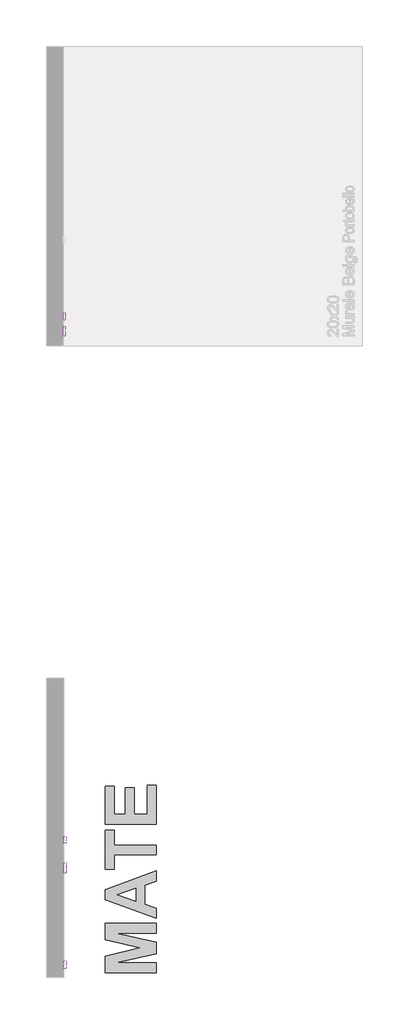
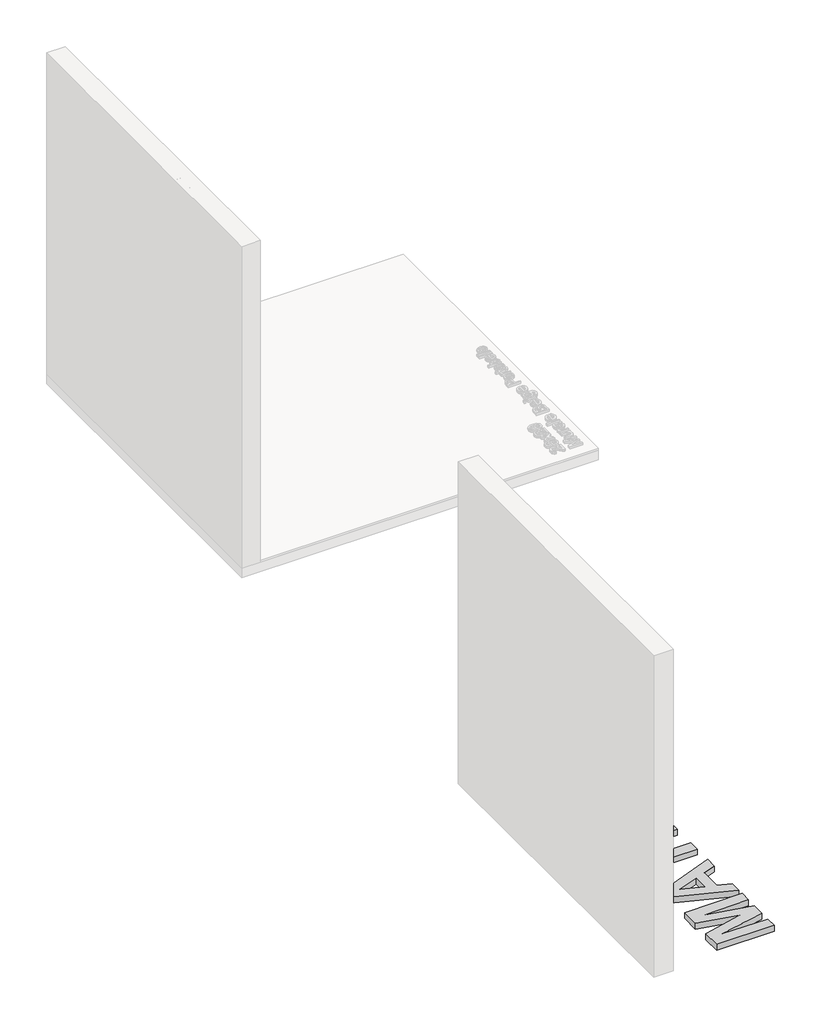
# One storey, part 11 of 21: 6 proxies.
"""IFC4 building model written with IfcOpenShell, lengths in millimetres."""

from ifc_helpers import new_model, si_unit, frame, origin, origin_with_axes, place, context, project, spatial, polyline, outline, extrude, element, save

model = new_model("IFC4")

# Units and contexts
model_context = context("Model", 3, world=origin())
ifc_project = project(units=[si_unit("LENGTHUNIT", "METRE", prefix="MILLI")], contexts=[model_context])

# Site, building, storey
site = spatial("IfcSite", under=ifc_project)
building = spatial("IfcBuilding", under=site)
storey = spatial("IfcBuildingStorey", under=building, Name="PORTOBELLO - SHOWROOM", Elevation=0.0)

# Proxies
placement = place(None, origin())
element("IfcBuildingElementProxy", 1, Name="10mm Arial", ObjectType="10mm Arial", at=placement, inside=storey, context=model_context, shape_type="SweptSolid", body=[
    extrude(outline(polyline([(16965.0222015, 2518.4745677), (16965.0222015, 2618.9308778), (16986.555561, 2618.9308778), (17007.1569527, 2548.1258565), (17011.326282, 2533.3370003), (17015.8144423, 2549.3521298), (17036.0234266, 2618.9308778), (17057.6303624, 2618.9308778), (17057.6303624, 2518.4745677), (17045.0733237, 2518.4745677), (17045.0733237, 2606.373839), (17019.8366188, 2518.4745677), (17002.8404706, 2518.4745677), (16977.5792403, 2606.373839), (16977.5792403, 2518.4745677), (16965.0222015, 2518.4745677)])), frame((15340.268651, 0.0, 0.0), z_axis=(1.0, 0.0, 0.0), x_axis=(0.0, 1.0, 0.0)), (0.0, 0.0, 1.0), 20.0),
    extrude(outline(polyline([(17125.1244458, 2518.4745677), (17125.1244458, 2531.1542338), (17115.2897338, 2520.4672618), (17102.4629149, 2516.9049378), (17090.6539029, 2519.4065354), (17082.511448, 2525.6850548), (17078.7713144, 2534.9311556), (17078.0355504, 2546.6052776), (17078.0355504, 2592.2471704), (17090.5925892, 2592.2471704), (17090.5925892, 2552.515915), (17091.3528787, 2539.7136215), (17096.3192856, 2532.1965661), (17105.675751, 2529.4619766), (17116.1603879, 2532.2578797), (17123.0888321, 2539.873037), (17125.1244458, 2553.8648156), (17125.1244458, 2592.2471704), (17137.6814846, 2592.2471704), (17137.6814846, 2518.4745677), (17125.1244458, 2518.4745677)])), frame((15340.268651, 0.0, 0.0), z_axis=(1.0, 0.0, 0.0), x_axis=(0.0, 1.0, 0.0)), (0.0, 0.0, 1.0), 20.0),
    extrude(outline(polyline([(17154.9474129, 2518.4745677), (17154.9474129, 2592.2471704), (17165.9348218, 2592.2471704), (17165.9348218, 2581.3333379), (17173.7339201, 2591.3887791), (17181.5820693, 2593.8168003), (17194.188159, 2589.9417766), (17189.9943043, 2578.6845875), (17181.1651364, 2581.2597615), (17174.0650139, 2578.7826894), (17169.5400654, 2571.9155588), (17167.5044517, 2557.24933), (17167.5044517, 2518.4745677), (17154.9474129, 2518.4745677)])), frame((15340.268651, 0.0, 0.0), z_axis=(1.0, 0.0, 0.0), x_axis=(0.0, 1.0, 0.0)), (0.0, 0.0, 1.0), 20.0),
    extrude(outline(polyline([(17249.1252037, 2527.8923467), (17236.9483096, 2519.3820099), (17223.4960913, 2516.9049378), (17213.0022574, 2518.3948599), (17205.2614071, 2522.8646261), (17200.4881382, 2529.6520489), (17198.8970486, 2538.0949407), (17201.3005443, 2548.0277546), (17207.6158519, 2555.2382417), (17216.4082316, 2559.3585201), (17227.2730131, 2561.246981), (17249.0516273, 2565.563463), (17249.1252037, 2568.3593662), (17245.6671129, 2577.6299925), (17231.785699, 2581.2597615), (17219.0815074, 2578.8440031), (17213.0237172, 2570.2723526), (17200.4666784, 2571.8419824), (17205.8990692, 2584.1047156), (17216.8374272, 2591.2906772), (17233.4043797, 2593.8168003), (17248.6224316, 2591.5849828), (17257.2186076, 2585.9809138), (17261.0691058, 2577.4583142), (17261.6822424, 2566.4709053), (17261.6822424, 2550.8481832), (17262.3199046, 2529.0327809), (17264.8215021, 2518.4745677), (17252.2644634, 2518.4745677), (17249.1252037, 2527.8923467)]), holes=[polyline([(17249.1252037, 2553.0064243), (17228.8671685, 2549.1559261), (17218.0637005, 2547.1203124), (17213.17087, 2543.8093744), (17211.4540874, 2538.9778575), (17215.194221, 2532.1843033), (17226.1693672, 2529.4619766), (17238.8735587, 2532.4663462), (17247.0650645, 2539.738147), (17249.0516273, 2549.4502317), (17249.1252037, 2553.0064243)])]), frame((15340.268651, 0.0, 0.0), z_axis=(1.0, 0.0, 0.0), x_axis=(0.0, 1.0, 0.0)), (0.0, 0.0, 1.0), 20.0),
    extrude(outline(polyline([(15360.268651, 17291.5052095), (15360.268651, 17278.9481707), (15340.268651, 17278.9481707), (15340.268651, 17291.5052095), (15360.268651, 17291.5052095)])), frame((0.0, 0.0, 2518.4745677), z_axis=(0.0, 0.0, 1.0), x_axis=(1.0, 0.0, 0.0)), (0.0, 0.0, 1.0), 100.4563101),
    extrude(outline(polyline([(17361.9913998, 2540.4493855), (17374.3031839, 2538.8797557), (17369.8671402, 2529.602998), (17362.7884774, 2522.6684224), (17353.2266112, 2518.345809), (17341.3409571, 2516.9049378), (17326.6072832, 2519.391207), (17315.2703864, 2526.8500144), (17308.0415052, 2538.7969822), (17305.6318781, 2554.7477324), (17308.0660307, 2571.2349771), (17315.3684883, 2583.5651553), (17326.5521009, 2591.253889), (17340.6297186, 2593.8168003), (17354.2689436, 2591.2600204), (17365.1674477, 2583.5896808), (17372.3135554, 2571.2840281), (17374.6955913, 2554.8213088), (17374.6220149, 2551.4367944), (17318.1889169, 2551.4367944), (17320.3624863, 2542.0374095), (17325.4116667, 2535.1273593), (17332.6987959, 2530.8783223), (17341.5862118, 2529.4619766), (17353.8979959, 2532.0862015), (17361.9913998, 2540.4493855)]), holes=[polyline([(17318.1889169, 2563.9938332), (17362.1385526, 2563.9938332), (17357.110832, 2575.3736496), (17349.7899803, 2579.7882335), (17340.5806677, 2581.2597615), (17325.1173611, 2576.5631347), (17320.2521217, 2571.0724959), (17318.1889169, 2563.9938332)])]), frame((15340.268651, 0.0, 0.0), z_axis=(1.0, 0.0, 0.0), x_axis=(0.0, 1.0, 0.0)), (0.0, 0.0, 1.0), 20.0),
    extrude(outline(polyline([(17428.0630061, 2518.4745677), (17428.0630061, 2618.9308778), (17466.39631, 2618.9308778), (17485.1705545, 2615.9755591), (17496.2560653, 2606.8888738), (17500.265979, 2594.0375295), (17496.8937274, 2582.3020938), (17486.7033961, 2573.4116123), (17499.0764939, 2564.0428841), (17503.4052387, 2548.4201621), (17500.44992, 2534.9188928), (17493.1290683, 2525.30491), (17482.2029731, 2520.203613), (17466.1020044, 2518.4745677), (17428.0630061, 2518.4745677)]), holes=[polyline([(17440.6200449, 2578.1205018), (17463.5513559, 2578.1205018), (17476.9422605, 2579.1996223), (17484.9988762, 2583.8471982), (17487.7089403, 2592.0264412), (17485.1828172, 2600.217947), (17477.9478047, 2605.0617266), (17461.8100478, 2606.373839), (17440.6200449, 2606.373839), (17440.6200449, 2578.1205018)]), polyline([(17440.6200449, 2531.0316064), (17466.3717845, 2531.0316064), (17475.6914618, 2531.5221158), (17483.5763992, 2534.2567053), (17488.8003235, 2539.8362488), (17490.8482, 2548.2975347), (17488.4447043, 2558.0586703), (17480.6578687, 2563.8834686), (17465.1455112, 2565.563463), (17440.6200449, 2565.563463), (17440.6200449, 2531.0316064)])]), frame((15340.268651, 0.0, 0.0), z_axis=(1.0, 0.0, 0.0), x_axis=(0.0, 1.0, 0.0)), (0.0, 0.0, 1.0), 20.0),
    extrude(outline(polyline([(17570.7521693, 2540.4493855), (17583.0639534, 2538.8797557), (17578.6279097, 2529.602998), (17571.549247, 2522.6684224), (17561.9873808, 2518.345809), (17550.1017266, 2516.9049378), (17535.3680527, 2519.391207), (17524.0311559, 2526.8500144), (17516.8022747, 2538.7969822), (17514.3926476, 2554.7477324), (17516.8268002, 2571.2349771), (17524.1292578, 2583.5651553), (17535.3128704, 2591.253889), (17549.3904881, 2593.8168003), (17563.0297131, 2591.2600204), (17573.9282172, 2583.5896808), (17581.074325, 2571.2840281), (17583.4563609, 2554.8213088), (17583.3827845, 2551.4367944), (17526.9496864, 2551.4367944), (17529.1232559, 2542.0374095), (17534.1724363, 2535.1273593), (17541.4595654, 2530.8783223), (17550.3469813, 2529.4619766), (17562.6587654, 2532.0862015), (17570.7521693, 2540.4493855)]), holes=[polyline([(17526.9496864, 2563.9938332), (17570.8993221, 2563.9938332), (17565.8716015, 2575.3736496), (17558.5507498, 2579.7882335), (17549.3414372, 2581.2597615), (17533.8781307, 2576.5631347), (17529.0128913, 2571.0724959), (17526.9496864, 2563.9938332)])]), frame((15340.268651, 0.0, 0.0), z_axis=(1.0, 0.0, 0.0), x_axis=(0.0, 1.0, 0.0)), (0.0, 0.0, 1.0), 20.0),
    extrude(outline(polyline([(15360.268651, 17608.5704384), (15360.268651, 17596.0133996), (15340.268651, 17596.0133996), (15340.268651, 17608.5704384), (15360.268651, 17608.5704384)])), frame((0.0, 0.0, 2518.4745677), z_axis=(0.0, 0.0, 1.0), x_axis=(1.0, 0.0, 0.0)), (0.0, 0.0, 1.0), 73.7726028),
    extrude(outline(polyline([(15360.268651, 17608.5704384), (15360.268651, 17596.0133996), (15340.268651, 17596.0133996), (15340.268651, 17608.5704384), (15360.268651, 17608.5704384)])), frame((0.0, 0.0, 2606.373839), z_axis=(0.0, 0.0, 1.0), x_axis=(1.0, 0.0, 0.0)), (0.0, 0.0, 1.0), 12.5570388),
    extrude(outline(polyline([(17624.2667369, 2512.1960483), (17636.8237756, 2510.6264184), (17640.8950031, 2504.0045425), (17653.0841598, 2501.2086394), (17665.9355042, 2504.3724245), (17672.0668708, 2513.2506433), (17672.9252621, 2527.8923467), (17664.0838315, 2520.8290124), (17653.304889, 2518.4745677), (17640.3585085, 2521.2152885), (17630.7046718, 2529.4374511), (17624.6989982, 2541.4917178), (17622.697107, 2555.728751), (17626.2900878, 2575.1897086), (17636.6888856, 2588.9607579), (17652.6917524, 2593.8168003), (17663.8937591, 2591.069948), (17672.9252621, 2582.8293914), (17672.9252621, 2592.2471704), (17685.4823009, 2592.2471704), (17685.4823009, 2528.5545343), (17682.0487356, 2504.1639581), (17671.1716913, 2492.8209299), (17652.8389052, 2488.6516006), (17641.1555861, 2490.1200629), (17631.9554706, 2494.5254498), (17626.0540302, 2501.880024), (17624.2667369, 2512.1960483)]), holes=[polyline([(17635.2541458, 2556.5871424), (17636.5938494, 2545.0693702), (17640.6129602, 2537.1507103), (17646.655422, 2532.5613824), (17654.0651785, 2531.0316064), (17661.4197527, 2532.5521853), (17667.4928713, 2537.1139221), (17671.5671644, 2544.9314145), (17672.9252621, 2556.2192604), (17671.5273105, 2567.1055017), (17667.3334558, 2574.9444539), (17661.1714324, 2579.6809346), (17653.8689748, 2581.2597615), (17646.6983415, 2579.7054601), (17640.6865366, 2575.0425558), (17636.6122435, 2567.3200996), (17635.2541458, 2556.5871424)])]), frame((15340.268651, 0.0, 0.0), z_axis=(1.0, 0.0, 0.0), x_axis=(0.0, 1.0, 0.0)), (0.0, 0.0, 1.0), 20.0),
    extrude(outline(polyline([(17755.9684911, 2540.4493855), (17768.2802753, 2538.8797557), (17763.8442315, 2529.602998), (17756.7655688, 2522.6684224), (17747.2037026, 2518.345809), (17735.3180485, 2516.9049378), (17720.5843746, 2519.391207), (17709.2474778, 2526.8500144), (17702.0185966, 2538.7969822), (17699.6089695, 2554.7477324), (17702.043122, 2571.2349771), (17709.3455796, 2583.5651553), (17720.5291923, 2591.253889), (17734.60681, 2593.8168003), (17748.2460349, 2591.2600204), (17759.144539, 2583.5896808), (17766.2906468, 2571.2840281), (17768.6726827, 2554.8213088), (17768.5991063, 2551.4367944), (17712.1660083, 2551.4367944), (17714.3395777, 2542.0374095), (17719.3887581, 2535.1273593), (17726.6758873, 2530.8783223), (17735.5633031, 2529.4619766), (17747.8750873, 2532.0862015), (17755.9684911, 2540.4493855)]), holes=[polyline([(17712.1660083, 2563.9938332), (17756.1156439, 2563.9938332), (17751.0879233, 2575.3736496), (17743.7670716, 2579.7882335), (17734.557759, 2581.2597615), (17719.0944525, 2576.5631347), (17714.2292131, 2571.0724959), (17712.1660083, 2563.9938332)])]), frame((15340.268651, 0.0, 0.0), z_axis=(1.0, 0.0, 0.0), x_axis=(0.0, 1.0, 0.0)), (0.0, 0.0, 1.0), 20.0),
    extrude(outline(polyline([(17869.1289929, 2557.7153138), (17869.1289929, 2570.2723526), (17909.9393689, 2570.2723526), (17909.9393689, 2532.7238636), (17889.7916983, 2520.8780634), (17868.4913307, 2516.9049378), (17854.404516, 2518.4837647), (17841.6727333, 2523.2202454), (17831.0961259, 2530.948833), (17823.4748373, 2541.5039806), (17818.8671153, 2554.1652526), (17817.3312079, 2568.2122134), (17818.8609839, 2582.3603418), (17823.4503118, 2595.5213202), (17830.9091192, 2606.5608457), (17841.0473339, 2614.3446156), (17853.3959062, 2618.9615346), (17867.4857866, 2620.5005077), (17887.1306852, 2616.9320523), (17900.9017345, 2606.9992384), (17908.4923663, 2590.383235), (17896.9163462, 2587.121348), (17891.1896498, 2598.7341563), (17881.4039888, 2605.4296086), (17867.2895829, 2607.9434689), (17851.2131397, 2605.2334049), (17840.2747817, 2598.1210196), (17833.8123213, 2588.4457231), (17829.8882467, 2568.7272482), (17834.609399, 2546.8382695), (17848.3436601, 2533.7416705), (17867.4857866, 2529.4619766), (17884.6658758, 2532.6870754), (17897.3823301, 2539.5664687), (17897.3823301, 2557.7153138), (17869.1289929, 2557.7153138)])), frame((15340.268651, 0.0, 0.0), z_axis=(1.0, 0.0, 0.0), x_axis=(0.0, 1.0, 0.0)), (0.0, 0.0, 1.0), 20.0),
    extrude(outline(polyline([(17928.774927, 2518.4745677), (17928.774927, 2592.2471704), (17939.7623359, 2592.2471704), (17939.7623359, 2581.3333379), (17947.5614342, 2591.3887791), (17955.4095835, 2593.8168003), (17968.0156732, 2589.9417766), (17963.8218184, 2578.6845875), (17954.9926505, 2581.2597615), (17947.892528, 2578.7826894), (17943.3675795, 2571.9155588), (17941.3319658, 2557.24933), (17941.3319658, 2518.4745677), (17928.774927, 2518.4745677)])), frame((15340.268651, 0.0, 0.0), z_axis=(1.0, 0.0, 0.0), x_axis=(0.0, 1.0, 0.0)), (0.0, 0.0, 1.0), 20.0),
    extrude(outline(polyline([(15360.268651, 17988.4208612), (15360.268651, 17975.8638224), (15340.268651, 17975.8638224), (15340.268651, 17988.4208612), (15360.268651, 17988.4208612)])), frame((0.0, 0.0, 2606.373839), z_axis=(0.0, 0.0, 1.0), x_axis=(1.0, 0.0, 0.0)), (0.0, 0.0, 1.0), 12.5570388),
    extrude(outline(polyline([(15360.268651, 17988.4208612), (15360.268651, 17975.8638224), (15340.268651, 17975.8638224), (15340.268651, 17988.4208612), (15360.268651, 17988.4208612)])), frame((0.0, 0.0, 2518.4745677), z_axis=(0.0, 0.0, 1.0), x_axis=(1.0, 0.0, 0.0)), (0.0, 0.0, 1.0), 73.7726028),
    extrude(outline(polyline([(18033.9401267, 2528.9469418), (18035.5097565, 2518.1066857), (18026.1165029, 2516.9049378), (18015.5950779, 2518.9896025), (18010.3466281, 2524.4587815), (18008.8260492, 2538.7080774), (18008.8260492, 2579.6901317), (17999.4082701, 2579.6901317), (17999.4082701, 2592.2471704), (18008.8260492, 2592.2471704), (18008.8260492, 2610.1752863), (18021.3830879, 2617.5574517), (18021.3830879, 2592.2471704), (18033.9401267, 2592.2471704), (18033.9401267, 2579.6901317), (18021.3830879, 2579.6901317), (18021.3830879, 2539.0759594), (18022.0452755, 2532.6012363), (18024.1912538, 2530.3081052), (18028.4709477, 2529.4619766), (18033.9401267, 2528.9469418)])), frame((15340.268651, 0.0, 0.0), z_axis=(1.0, 0.0, 0.0), x_axis=(0.0, 1.0, 0.0)), (0.0, 0.0, 1.0), 20.0),
])
element("IfcBuildingElementProxy", 2, Name="10mm Arial", ObjectType="10mm Arial", at=placement, inside=storey, context=model_context, shape_type="SweptSolid", body=[
    extrude(outline(polyline([(17001.123688, 2383.4745677), (17001.123688, 2407.0190154), (16955.6044224, 2407.0190154), (16955.6044224, 2419.5760541), (17004.2629477, 2482.361248), (17013.6807267, 2482.361248), (17013.6807267, 2419.5760541), (17026.2377655, 2419.5760541), (17026.2377655, 2407.0190154), (17013.6807267, 2407.0190154), (17013.6807267, 2383.4745677), (17001.123688, 2383.4745677)]), holes=[polyline([(17001.123688, 2419.5760541), (17001.123688, 2458.3753419), (16971.0554662, 2419.5760541), (17001.123688, 2419.5760541)])]), frame((15340.268651, 0.0, 0.0), z_axis=(1.0, 0.0, 0.0), x_axis=(0.0, 1.0, 0.0)), (0.0, 0.0, 1.0), 20.0),
    extrude(outline(polyline([(17037.2251744, 2410.158275), (17049.7822132, 2411.7279049), (17056.1097835, 2398.7907214), (17069.230908, 2394.4619766), (17078.2317542, 2395.9672271), (17084.9762574, 2400.4829786), (17089.1885063, 2407.4880649), (17090.5925892, 2416.4613199), (17085.3318767, 2431.3728034), (17078.7253292, 2435.4746877), (17069.4271117, 2436.8419824), (17058.4029146, 2434.6592159), (17051.3518431, 2428.9938332), (17038.7948043, 2430.563463), (17049.7822132, 2482.361248), (17098.4407384, 2482.361248), (17098.4407384, 2469.8042092), (17059.9357563, 2469.8042092), (17054.5401537, 2442.1394832), (17063.510343, 2447.5841367), (17072.909728, 2449.3990212), (17084.6451636, 2447.1488097), (17094.3940365, 2440.3981751), (17100.9607301, 2430.1097419), (17103.149628, 2417.2461348), (17101.1814593, 2404.6890961), (17095.2769533, 2393.9469418), (17083.9707133, 2384.9154388), (17069.1818571, 2381.9049378), (17056.8486132, 2383.839384), (17047.0230982, 2389.6427224), (17040.287792, 2398.6405029), (17037.2251744, 2410.158275)])), frame((15340.268651, 0.0, 0.0), z_axis=(1.0, 0.0, 0.0), x_axis=(0.0, 1.0, 0.0)), (0.0, 0.0, 1.0), 20.0),
    extrude(outline(polyline([(17109.4281474, 2383.4745677), (17136.2590075, 2420.5815982), (17110.9977772, 2457.2471704), (17126.0564135, 2457.2471704), (17138.2455703, 2439.5643092), (17143.960004, 2431.2501761), (17148.9141482, 2438.0682557), (17162.7955621, 2457.2471704), (17177.9032494, 2457.2471704), (17151.3666948, 2420.5570728), (17176.9222307, 2383.4745677), (17161.8390689, 2383.4745677), (17146.4370761, 2405.792742), (17143.6411729, 2409.8884949), (17124.5358346, 2383.4745677), (17109.4281474, 2383.4745677)])), frame((15340.268651, 0.0, 0.0), z_axis=(1.0, 0.0, 0.0), x_axis=(0.0, 1.0, 0.0)), (0.0, 0.0, 1.0), 20.0),
    extrude(outline(polyline([(17231.8592754, 2383.4745677), (17219.3022366, 2383.4745677), (17219.3022366, 2461.7598562), (17207.4073854, 2453.2863076), (17194.188159, 2446.9464746), (17194.188159, 2458.8168003), (17212.5945215, 2470.5644987), (17223.7658715, 2483.9308778), (17231.8592754, 2483.9308778), (17231.8592754, 2383.4745677)])), frame((15340.268651, 0.0, 0.0), z_axis=(1.0, 0.0, 0.0), x_axis=(0.0, 1.0, 0.0)), (0.0, 0.0, 1.0), 20.0),
    extrude(outline(polyline([(17326.0370661, 2396.0316064), (17326.0370661, 2383.4745677), (17260.1126126, 2383.4745677), (17261.4615132, 2392.1320573), (17269.101196, 2405.4616482), (17284.8342827, 2420.0175125), (17306.5025322, 2440.9377353), (17311.9103975, 2455.1625058), (17306.7968378, 2466.6772122), (17293.4427213, 2471.373839), (17279.5245192, 2466.7875768), (17274.2392812, 2454.1079107), (17261.6822424, 2455.6775406), (17264.7264659, 2467.8237778), (17271.308488, 2476.6958652), (17281.084952, 2482.1221247), (17293.7125015, 2483.9308778), (17306.4320215, 2481.9197896), (17316.1900914, 2475.8865249), (17322.3981, 2466.873416), (17324.4674363, 2455.9227952), (17322.2356188, 2444.0156813), (17314.8166653, 2431.7038972), (17296.8272357, 2414.4992826), (17282.381736, 2402.4204904), (17276.7163533, 2396.0316064), (17326.0370661, 2396.0316064)])), frame((15340.268651, 0.0, 0.0), z_axis=(1.0, 0.0, 0.0), x_axis=(0.0, 1.0, 0.0)), (0.0, 0.0, 1.0), 20.0),
    extrude(outline(polyline([(17338.5941049, 2432.8933823), (17342.2851876, 2461.7966444), (17353.248071, 2478.4616988), (17371.5563317, 2483.9308778), (17386.2225605, 2480.6935163), (17396.3515781, 2471.3615763), (17402.2376901, 2456.4991437), (17404.5185584, 2432.8933823), (17400.8642639, 2404.1127476), (17389.9381687, 2387.410905), (17381.706809, 2383.2814296), (17371.5563317, 2381.9049378), (17358.5087836, 2384.2961708), (17348.6004952, 2391.4698697), (17341.0957025, 2408.4598865), (17338.5941049, 2432.8933823)]), holes=[polyline([(17351.1511437, 2432.9179078), (17352.6226716, 2413.1657104), (17357.0372556, 2401.7337774), (17363.6100806, 2396.2799268), (17371.5563317, 2394.4619766), (17379.5025827, 2396.2860581), (17386.0754077, 2401.7583028), (17390.4899917, 2413.1963672), (17391.9615197, 2432.9179078), (17390.5390426, 2452.2255812), (17386.2716115, 2463.746419), (17379.7110492, 2469.466984), (17371.4091789, 2471.373839), (17363.5487669, 2469.6938446), (17357.2334593, 2464.6538613), (17352.6717226, 2452.4156536), (17351.1511437, 2432.9179078)])]), frame((15340.268651, 0.0, 0.0), z_axis=(1.0, 0.0, 0.0), x_axis=(0.0, 1.0, 0.0)), (0.0, 0.0, 1.0), 20.0),
])
element("IfcBuildingElementProxy", 3, Name="10mm Arial", ObjectType="10mm Arial", at=placement, inside=storey, context=model_context, shape_type="SweptSolid", body=[
    extrude(outline(polyline([(22660.5312135, 2516.1895903), (22660.5312135, 2616.6459005), (22682.0645729, 2616.6459005), (22702.6659647, 2545.8408792), (22706.8352939, 2531.0520229), (22711.3234543, 2547.0671525), (22731.5324385, 2616.6459005), (22753.1393744, 2616.6459005), (22753.1393744, 2516.1895903), (22740.5823356, 2516.1895903), (22740.5823356, 2604.0888617), (22715.3456308, 2516.1895903), (22698.3494826, 2516.1895903), (22673.0882522, 2604.0888617), (22673.0882522, 2516.1895903), (22660.5312135, 2516.1895903)])), frame((15333.968651, 0.0, 0.0), z_axis=(1.0, 0.0, 0.0), x_axis=(0.0, 1.0, 0.0)), (0.0, 0.0, 1.0), 20.0),
    extrude(outline(polyline([(22820.6334578, 2516.1895903), (22820.6334578, 2528.8692564), (22810.7987458, 2518.1822845), (22797.9719269, 2514.6199605), (22786.1629148, 2517.1215581), (22778.02046, 2523.4000774), (22774.2803264, 2532.6461783), (22773.5445624, 2544.3203002), (22773.5445624, 2589.9621931), (22786.1016012, 2589.9621931), (22786.1016012, 2550.2309376), (22786.8618906, 2537.4286442), (22791.8282975, 2529.9115888), (22801.184763, 2527.1769993), (22811.6693998, 2529.9729024), (22818.5978441, 2537.5880597), (22820.6334578, 2551.5798383), (22820.6334578, 2589.9621931), (22833.1904965, 2589.9621931), (22833.1904965, 2516.1895903), (22820.6334578, 2516.1895903)])), frame((15333.968651, 0.0, 0.0), z_axis=(1.0, 0.0, 0.0), x_axis=(0.0, 1.0, 0.0)), (0.0, 0.0, 1.0), 20.0),
    extrude(outline(polyline([(22850.4564248, 2516.1895903), (22850.4564248, 2589.9621931), (22861.4438338, 2589.9621931), (22861.4438338, 2579.0483606), (22869.2429321, 2589.1038018), (22877.0910813, 2591.531823), (22889.697171, 2587.6567993), (22885.5033163, 2576.3996102), (22876.6741484, 2578.9747842), (22869.5740259, 2576.4977121), (22865.0490773, 2569.6305815), (22863.0134636, 2554.9643526), (22863.0134636, 2516.1895903), (22850.4564248, 2516.1895903)])), frame((15333.968651, 0.0, 0.0), z_axis=(1.0, 0.0, 0.0), x_axis=(0.0, 1.0, 0.0)), (0.0, 0.0, 1.0), 20.0),
    extrude(outline(polyline([(22944.6342156, 2525.6073694), (22932.4573216, 2517.0970326), (22919.0051033, 2514.6199605), (22908.5112694, 2516.1098826), (22900.7704191, 2520.5796488), (22895.9971502, 2527.3670716), (22894.4060605, 2535.8099634), (22896.8095562, 2545.7427773), (22903.1248638, 2552.9532644), (22911.9172435, 2557.0735427), (22922.7820251, 2558.9620036), (22944.5606392, 2563.2784857), (22944.6342156, 2566.0743889), (22941.1761249, 2575.3450152), (22927.2947109, 2578.9747842), (22914.5905193, 2576.5590258), (22908.5327292, 2567.9873753), (22895.9756904, 2569.5570051), (22901.4080812, 2581.8197383), (22912.3464392, 2589.0056999), (22928.9133917, 2591.531823), (22944.1314436, 2589.3000055), (22952.7276195, 2583.6959365), (22956.5781177, 2575.1733369), (22957.1912544, 2564.185928), (22957.1912544, 2548.5632059), (22957.8289165, 2526.7478036), (22960.3305141, 2516.1895903), (22947.7734753, 2516.1895903), (22944.6342156, 2525.6073694)]), holes=[polyline([(22944.6342156, 2550.721447), (22924.3761804, 2546.8709487), (22913.5727125, 2544.835335), (22908.6798819, 2541.5243971), (22906.9630993, 2536.6928802), (22910.7032329, 2529.899326), (22921.6783791, 2527.1769993), (22934.3825707, 2530.1813689), (22942.5740764, 2537.4531697), (22944.5606392, 2547.1652543), (22944.6342156, 2550.721447)])]), frame((15333.968651, 0.0, 0.0), z_axis=(1.0, 0.0, 0.0), x_axis=(0.0, 1.0, 0.0)), (0.0, 0.0, 1.0), 20.0),
    extrude(outline(polyline([(15353.968651, 22987.0142215), (15353.968651, 22974.4571827), (15333.968651, 22974.4571827), (15333.968651, 22987.0142215), (15353.968651, 22987.0142215)])), frame((0.0, 0.0, 2516.1895903), z_axis=(0.0, 0.0, 1.0), x_axis=(1.0, 0.0, 0.0)), (0.0, 0.0, 1.0), 100.4563101),
    extrude(outline(polyline([(23057.5004117, 2538.1644082), (23069.8121958, 2536.5947783), (23065.3761521, 2527.3180207), (23058.2974894, 2520.3834451), (23048.7356232, 2516.0608316), (23036.8499691, 2514.6199605), (23022.1162952, 2517.1062296), (23010.7793983, 2524.5650371), (23003.5505171, 2536.5120049), (23001.1408901, 2552.4627551), (23003.5750426, 2568.9499998), (23010.8775002, 2581.280178), (23022.0611129, 2588.9689117), (23036.1387305, 2591.531823), (23049.7779555, 2588.9750431), (23060.6764596, 2581.3047035), (23067.8225674, 2568.9990508), (23070.2046033, 2552.5363315), (23070.1310269, 2549.1518171), (23013.6979288, 2549.1518171), (23015.8714983, 2539.7524321), (23020.9206787, 2532.842382), (23028.2078079, 2528.5933449), (23037.0952237, 2527.1769993), (23049.4070078, 2529.8012242), (23057.5004117, 2538.1644082)]), holes=[polyline([(23013.6979288, 2561.7088559), (23057.6475645, 2561.7088559), (23052.6198439, 2573.0886723), (23045.2989922, 2577.5032562), (23036.0896796, 2578.9747842), (23020.6263731, 2574.2781574), (23015.7611337, 2568.7875186), (23013.6979288, 2561.7088559)])]), frame((15333.968651, 0.0, 0.0), z_axis=(1.0, 0.0, 0.0), x_axis=(0.0, 1.0, 0.0)), (0.0, 0.0, 1.0), 20.0),
    extrude(outline(polyline([(23123.5720181, 2516.1895903), (23123.5720181, 2616.6459005), (23161.905322, 2616.6459005), (23180.6795665, 2613.6905818), (23191.7650772, 2604.6038965), (23195.774991, 2591.7525522), (23192.4027394, 2580.0171165), (23182.2124081, 2571.126635), (23194.5855059, 2561.7579068), (23198.9142507, 2546.1351847), (23195.958932, 2532.6339155), (23188.6380803, 2523.0199327), (23177.711985, 2517.9186357), (23161.6110164, 2516.1895903), (23123.5720181, 2516.1895903)]), holes=[polyline([(23136.1290568, 2575.8355245), (23159.0603679, 2575.8355245), (23172.4512725, 2576.914645), (23180.5078882, 2581.5622209), (23183.2179522, 2589.7414639), (23180.6918292, 2597.9329697), (23173.4568166, 2602.7767493), (23157.3190598, 2604.0888617), (23136.1290568, 2604.0888617), (23136.1290568, 2575.8355245)]), polyline([(23136.1290568, 2528.7466291), (23161.8807965, 2528.7466291), (23171.2004737, 2529.2371384), (23179.0854111, 2531.9717279), (23184.3093355, 2537.5512715), (23186.3572119, 2546.0125574), (23183.9537162, 2555.773693), (23176.1668806, 2561.5984913), (23160.6545232, 2563.2784857), (23136.1290568, 2563.2784857), (23136.1290568, 2528.7466291)])]), frame((15333.968651, 0.0, 0.0), z_axis=(1.0, 0.0, 0.0), x_axis=(0.0, 1.0, 0.0)), (0.0, 0.0, 1.0), 20.0),
    extrude(outline(polyline([(23266.2611813, 2538.1644082), (23278.5729654, 2536.5947783), (23274.1369216, 2527.3180207), (23267.0582589, 2520.3834451), (23257.4963927, 2516.0608316), (23245.6107386, 2514.6199605), (23230.8770647, 2517.1062296), (23219.5401679, 2524.5650371), (23212.3112867, 2536.5120049), (23209.9016596, 2552.4627551), (23212.3358121, 2568.9499998), (23219.6382697, 2581.280178), (23230.8218824, 2588.9689117), (23244.8995001, 2591.531823), (23258.538725, 2588.9750431), (23269.4372292, 2581.3047035), (23276.5833369, 2568.9990508), (23278.9653728, 2552.5363315), (23278.8917964, 2549.1518171), (23222.4586984, 2549.1518171), (23224.6322678, 2539.7524321), (23229.6814482, 2532.842382), (23236.9685774, 2528.5933449), (23245.8559933, 2527.1769993), (23258.1677774, 2529.8012242), (23266.2611813, 2538.1644082)]), holes=[polyline([(23222.4586984, 2561.7088559), (23266.4083341, 2561.7088559), (23261.3806135, 2573.0886723), (23254.0597618, 2577.5032562), (23244.8504491, 2578.9747842), (23229.3871426, 2574.2781574), (23224.5219032, 2568.7875186), (23222.4586984, 2561.7088559)])]), frame((15333.968651, 0.0, 0.0), z_axis=(1.0, 0.0, 0.0), x_axis=(0.0, 1.0, 0.0)), (0.0, 0.0, 1.0), 20.0),
    extrude(outline(polyline([(15353.968651, 23304.0794504), (15353.968651, 23291.5224116), (15333.968651, 23291.5224116), (15333.968651, 23304.0794504), (15353.968651, 23304.0794504)])), frame((0.0, 0.0, 2604.0888617), z_axis=(0.0, 0.0, 1.0), x_axis=(1.0, 0.0, 0.0)), (0.0, 0.0, 1.0), 12.5570388),
    extrude(outline(polyline([(15353.968651, 23304.0794504), (15353.968651, 23291.5224116), (15333.968651, 23291.5224116), (15333.968651, 23304.0794504), (15353.968651, 23304.0794504)])), frame((0.0, 0.0, 2516.1895903), z_axis=(0.0, 0.0, 1.0), x_axis=(1.0, 0.0, 0.0)), (0.0, 0.0, 1.0), 73.7726028),
    extrude(outline(polyline([(23319.7757488, 2509.911071), (23332.3327876, 2508.3414411), (23336.404015, 2501.7195652), (23348.5931718, 2498.923662), (23361.4445161, 2502.0874472), (23367.5758827, 2510.965666), (23368.4342741, 2525.6073694), (23359.5928434, 2518.5440351), (23348.813901, 2516.1895903), (23335.8675204, 2518.9303112), (23326.2136837, 2527.1524738), (23320.2080102, 2539.2067405), (23318.206119, 2553.4437737), (23321.7990998, 2572.9047313), (23332.1978975, 2586.6757806), (23348.2007643, 2591.531823), (23359.4027711, 2588.7849707), (23368.4342741, 2580.544414), (23368.4342741, 2589.9621931), (23380.9913128, 2589.9621931), (23380.9913128, 2526.269557), (23377.5577475, 2501.8789807), (23366.6807032, 2490.5359525), (23348.3479171, 2486.3666233), (23336.6645981, 2487.8350856), (23327.4644825, 2492.2404725), (23321.5630422, 2499.5950467), (23319.7757488, 2509.911071)]), holes=[polyline([(23330.7631577, 2554.302165), (23332.1028613, 2542.7843929), (23336.1219721, 2534.865733), (23342.1644339, 2530.2764051), (23349.5741904, 2528.7466291), (23356.9287647, 2530.267208), (23363.0018833, 2534.8289448), (23367.0761764, 2542.6464372), (23368.4342741, 2553.934283), (23367.0363225, 2564.8205244), (23362.8424677, 2572.6594766), (23356.6804443, 2577.3959573), (23349.3779867, 2578.9747842), (23342.2073535, 2577.4204828), (23336.1955485, 2572.7575785), (23332.1212554, 2565.0351223), (23330.7631577, 2554.302165)])]), frame((15333.968651, 0.0, 0.0), z_axis=(1.0, 0.0, 0.0), x_axis=(0.0, 1.0, 0.0)), (0.0, 0.0, 1.0), 20.0),
    extrude(outline(polyline([(23451.4775031, 2538.1644082), (23463.7892872, 2536.5947783), (23459.3532435, 2527.3180207), (23452.2745808, 2520.3834451), (23442.7127146, 2516.0608316), (23430.8270604, 2514.6199605), (23416.0933865, 2517.1062296), (23404.7564897, 2524.5650371), (23397.5276085, 2536.5120049), (23395.1179814, 2552.4627551), (23397.552134, 2568.9499998), (23404.8545916, 2581.280178), (23416.0382042, 2588.9689117), (23430.1158219, 2591.531823), (23443.7550469, 2588.9750431), (23454.653551, 2581.3047035), (23461.7996587, 2568.9990508), (23464.1816947, 2552.5363315), (23464.1081183, 2549.1518171), (23407.6750202, 2549.1518171), (23409.8485897, 2539.7524321), (23414.89777, 2532.842382), (23422.1848992, 2528.5933449), (23431.0723151, 2527.1769993), (23443.3840992, 2529.8012242), (23451.4775031, 2538.1644082)]), holes=[polyline([(23407.6750202, 2561.7088559), (23451.6246559, 2561.7088559), (23446.5969353, 2573.0886723), (23439.2760836, 2577.5032562), (23430.066771, 2578.9747842), (23414.6034645, 2574.2781574), (23409.7382251, 2568.7875186), (23407.6750202, 2561.7088559)])]), frame((15333.968651, 0.0, 0.0), z_axis=(1.0, 0.0, 0.0), x_axis=(0.0, 1.0, 0.0)), (0.0, 0.0, 1.0), 20.0),
])
element("IfcBuildingElementProxy", 4, Name="10mm Arial", ObjectType="10mm Arial", at=placement, inside=storey, context=model_context, shape_type="SweptSolid", body=[
    extrude(outline(polyline([(22720.1771476, 2393.7466291), (22720.1771476, 2381.1895903), (22654.2526941, 2381.1895903), (22655.6015947, 2389.84708), (22663.2412775, 2403.1766709), (22678.9743642, 2417.7325352), (22700.6426137, 2438.652758), (22706.050479, 2452.8775285), (22700.9369193, 2464.3922349), (22687.5828028, 2469.0888617), (22673.6646007, 2464.5025995), (22668.3793627, 2451.8229334), (22655.8223239, 2453.3925633), (22658.8665474, 2465.5388005), (22665.4485695, 2474.4108879), (22675.2250335, 2479.8371473), (22687.852583, 2481.6459005), (22700.572103, 2479.6348123), (22710.3301729, 2473.6015475), (22716.5381816, 2464.5884386), (22718.6075178, 2453.6378179), (22716.3757003, 2441.730704), (22708.9567468, 2429.4189199), (22690.9673172, 2412.2143053), (22676.5218175, 2400.1355131), (22670.8564348, 2393.7466291), (22720.1771476, 2393.7466291)])), frame((15333.968651, 0.0, 0.0), z_axis=(1.0, 0.0, 0.0), x_axis=(0.0, 1.0, 0.0)), (0.0, 0.0, 1.0), 20.0),
    extrude(outline(polyline([(22732.7341864, 2430.608405), (22736.4252691, 2459.5116671), (22747.3881525, 2476.1767215), (22765.6964132, 2481.6459005), (22780.362642, 2478.4085389), (22790.4916596, 2469.076599), (22796.3777716, 2454.2141664), (22798.6586399, 2430.608405), (22795.0043454, 2401.8277703), (22784.0782502, 2385.1259277), (22775.8468905, 2380.9964523), (22765.6964132, 2379.6199605), (22752.6488651, 2382.0111935), (22742.7405767, 2389.1848924), (22735.235784, 2406.1749092), (22732.7341864, 2430.608405)]), holes=[polyline([(22745.2912252, 2430.6329305), (22746.7627531, 2410.880733), (22751.1773371, 2399.4488), (22757.7501621, 2393.9949495), (22765.6964132, 2392.1769993), (22773.6426643, 2394.0010808), (22780.2154892, 2399.4733255), (22784.6300732, 2410.9113899), (22786.1016012, 2430.6329305), (22784.6791241, 2449.9406039), (22780.411693, 2461.4614417), (22773.8511307, 2467.1820067), (22765.5492604, 2469.0888617), (22757.6888484, 2467.4088673), (22751.3735408, 2462.3688839), (22746.8118041, 2450.1306762), (22745.2912252, 2430.6329305)])]), frame((15333.968651, 0.0, 0.0), z_axis=(1.0, 0.0, 0.0), x_axis=(0.0, 1.0, 0.0)), (0.0, 0.0, 1.0), 20.0),
    extrude(outline(polyline([(22804.9371593, 2381.1895903), (22831.7680195, 2418.2966209), (22806.5067892, 2454.9621931), (22821.5654255, 2454.9621931), (22833.7545823, 2437.2793319), (22839.4690159, 2428.9651988), (22844.4231601, 2435.7832784), (22858.3045741, 2454.9621931), (22873.4122613, 2454.9621931), (22846.8757068, 2418.2720955), (22872.4312427, 2381.1895903), (22857.3480809, 2381.1895903), (22841.946088, 2403.5077647), (22839.1501849, 2407.6035176), (22820.0448466, 2381.1895903), (22804.9371593, 2381.1895903)])), frame((15333.968651, 0.0, 0.0), z_axis=(1.0, 0.0, 0.0), x_axis=(0.0, 1.0, 0.0)), (0.0, 0.0, 1.0), 20.0),
    extrude(outline(polyline([(22944.6342156, 2393.7466291), (22944.6342156, 2381.1895903), (22878.7097621, 2381.1895903), (22880.0586627, 2389.84708), (22887.6983455, 2403.1766709), (22903.4314322, 2417.7325352), (22925.0996817, 2438.652758), (22930.507547, 2452.8775285), (22925.3939873, 2464.3922349), (22912.0398708, 2469.0888617), (22898.1216687, 2464.5025995), (22892.8364307, 2451.8229334), (22880.2793919, 2453.3925633), (22883.3236154, 2465.5388005), (22889.9056375, 2474.4108879), (22899.6821015, 2479.8371473), (22912.309651, 2481.6459005), (22925.029171, 2479.6348123), (22934.7872409, 2473.6015475), (22940.9952495, 2464.5884386), (22943.0645858, 2453.6378179), (22940.8327683, 2441.730704), (22933.4138148, 2429.4189199), (22915.4243852, 2412.2143053), (22900.9788855, 2400.1355131), (22895.3135028, 2393.7466291), (22944.6342156, 2393.7466291)])), frame((15333.968651, 0.0, 0.0), z_axis=(1.0, 0.0, 0.0), x_axis=(0.0, 1.0, 0.0)), (0.0, 0.0, 1.0), 20.0),
    extrude(outline(polyline([(22957.1912544, 2430.608405), (22960.8823371, 2459.5116671), (22971.8452205, 2476.1767215), (22990.1534811, 2481.6459005), (23004.81971, 2478.4085389), (23014.9487276, 2469.076599), (23020.8348395, 2454.2141664), (23023.1157079, 2430.608405), (23019.4614134, 2401.8277703), (23008.5353182, 2385.1259277), (23000.3039585, 2380.9964523), (22990.1534811, 2379.6199605), (22977.1059331, 2382.0111935), (22967.1976446, 2389.1848924), (22959.6928519, 2406.1749092), (22957.1912544, 2430.608405)]), holes=[polyline([(22969.7482931, 2430.6329305), (22971.2198211, 2410.880733), (22975.6344051, 2399.4488), (22982.2072301, 2393.9949495), (22990.1534811, 2392.1769993), (22998.0997322, 2394.0010808), (23004.6725572, 2399.4733255), (23009.0871412, 2410.9113899), (23010.5586691, 2430.6329305), (23009.1361921, 2449.9406039), (23004.868761, 2461.4614417), (22998.3081987, 2467.1820067), (22990.0063284, 2469.0888617), (22982.1459164, 2467.4088673), (22975.8306088, 2462.3688839), (22971.2688721, 2450.1306762), (22969.7482931, 2430.6329305)])]), frame((15333.968651, 0.0, 0.0), z_axis=(1.0, 0.0, 0.0), x_axis=(0.0, 1.0, 0.0)), (0.0, 0.0, 1.0), 20.0),
])
element("IfcBuildingElementProxy", 5, Name="10mm Arial Narrow", ObjectType="10mm Arial Narrow", at=placement, inside=storey, context=model_context, shape_type="SweptSolid", body=[
    extrude(outline(polyline([(18086.9277964, 2518.4745677), (18086.9277964, 2615.7916181), (18117.1676964, 2615.7916181), (18132.9130458, 2613.9767336), (18143.9985566, 2604.8164719), (18148.1433604, 2588.3721467), (18146.4173807, 2576.7041561), (18141.2394416, 2567.402873), (18131.8247282, 2561.314426), (18117.3884256, 2559.2849437), (18096.3455754, 2559.2849437), (18096.3455754, 2518.4745677), (18086.9277964, 2518.4745677)]), holes=[polyline([(18096.3455754, 2570.2723526), (18118.5411225, 2570.2723526), (18133.869539, 2574.6501483), (18138.7255813, 2587.857112), (18136.3343483, 2597.6795612), (18130.558601, 2603.2836303), (18118.3203933, 2604.8042092), (18096.3455754, 2604.8042092), (18096.3455754, 2570.2723526)])]), frame((15340.268651, 0.0, 0.0), z_axis=(1.0, 0.0, 0.0), x_axis=(0.0, 1.0, 0.0)), (0.0, 0.0, 1.0), 20.0),
    extrude(outline(polyline([(18155.9915096, 2553.7912392), (18157.8799705, 2569.8216971), (18163.5453532, 2581.3701261), (18172.104741, 2588.350687), (18182.675217, 2590.6775406), (18193.1230656, 2588.350687), (18201.7069789, 2581.3701261), (18207.445938, 2570.0056381), (18209.3589244, 2554.5270032), (18207.4796605, 2537.9447223), (18201.8418689, 2526.2123523), (18193.2916782, 2519.2317914), (18182.675217, 2516.9049378), (18172.1813831, 2519.2379228), (18163.6066669, 2526.2368778), (18157.8952989, 2537.7914381), (18155.9915096, 2553.7912392)]), holes=[polyline([(18165.4092887, 2553.8157647), (18166.6692845, 2541.6879216), (18170.449272, 2533.1162711), (18176.093195, 2528.0211054), (18182.9449971, 2526.3227169), (18189.4381143, 2528.0364339), (18194.9379502, 2533.1775847), (18198.6903465, 2541.7645636), (18199.9411453, 2553.8157647), (18198.6811495, 2565.9068196), (18194.901162, 2574.4662073), (18189.257239, 2579.561373), (18182.4054369, 2581.2597615), (18175.8663344, 2579.5521759), (18170.3756956, 2574.4294191), (18166.6508904, 2565.8608343), (18165.4092887, 2553.8157647)])]), frame((15340.268651, 0.0, 0.0), z_axis=(1.0, 0.0, 0.0), x_axis=(0.0, 1.0, 0.0)), (0.0, 0.0, 1.0), 20.0),
    extrude(outline(polyline([(18278.4226376, 2526.3227169), (18279.9922674, 2516.9049378), (18272.8798822, 2516.9049378), (18264.8845802, 2518.9528143), (18260.7152509, 2524.5568833), (18259.5870794, 2538.7080774), (18259.5870794, 2579.6901317), (18251.7389302, 2579.6901317), (18251.7389302, 2582.8293914), (18250.1693004, 2578.1205018), (18242.8607114, 2579.6901317), (18236.9868622, 2577.4460515), (18233.2467286, 2571.1797948), (18231.3337422, 2556.2928368), (18231.3337422, 2518.4745677), (18221.9159631, 2518.4745677), (18221.9159631, 2589.1079107), (18231.3337422, 2589.1079107), (18231.3337422, 2579.7391826), (18237.3670069, 2588.5192995), (18243.5474244, 2590.6775406), (18251.7389302, 2589.1079107), (18259.5870794, 2589.1079107), (18259.5870794, 2604.8042092), (18269.0048585, 2612.6523584), (18269.0048585, 2589.1079107), (18278.4226376, 2589.1079107), (18278.4226376, 2579.6901317), (18269.0048585, 2579.6901317), (18269.0048585, 2536.5498364), (18269.8387244, 2528.8243145), (18274.3023592, 2526.3227169), (18278.4226376, 2526.3227169)])), frame((15340.268651, 0.0, 0.0), z_axis=(1.0, 0.0, 0.0), x_axis=(0.0, 1.0, 0.0)), (0.0, 0.0, 1.0), 20.0),
    extrude(outline(polyline([(18284.701157, 2553.7912392), (18286.5896179, 2569.8216971), (18292.2550006, 2581.3701261), (18300.8143884, 2588.350687), (18311.3848644, 2590.6775406), (18321.832713, 2588.350687), (18330.4166262, 2581.3701261), (18336.1555854, 2570.0056381), (18338.0685717, 2554.5270032), (18336.1893079, 2537.9447223), (18330.5515163, 2526.2123523), (18322.0013256, 2519.2317914), (18311.3848644, 2516.9049378), (18300.8910304, 2519.2379228), (18292.3163143, 2526.2368778), (18286.6049463, 2537.7914381), (18284.701157, 2553.7912392)]), holes=[polyline([(18294.1189361, 2553.8157647), (18295.3789319, 2541.6879216), (18299.1589194, 2533.1162711), (18304.8028423, 2528.0211054), (18311.6546445, 2526.3227169), (18318.1477617, 2528.0364339), (18323.6475975, 2533.1775847), (18327.3999939, 2541.7645636), (18328.6507927, 2553.8157647), (18327.3907968, 2565.9068196), (18323.6108093, 2574.4662073), (18317.9668864, 2579.561373), (18311.1150842, 2581.2597615), (18304.5759818, 2579.5521759), (18299.085343, 2574.4294191), (18295.3605378, 2565.8608343), (18294.1189361, 2553.8157647)])]), frame((15340.268651, 0.0, 0.0), z_axis=(1.0, 0.0, 0.0), x_axis=(0.0, 1.0, 0.0)), (0.0, 0.0, 1.0), 20.0),
    extrude(outline(polyline([(18360.0433896, 2518.4745677), (18350.6256105, 2518.4745677), (18350.6256105, 2615.7916181), (18360.0433896, 2615.7916181), (18360.0433896, 2581.5785926), (18367.192563, 2588.4211977), (18376.0830446, 2590.6775406), (18388.5297187, 2586.6185759), (18397.4937767, 2574.3190545), (18400.8537656, 2554.3307995), (18398.9867645, 2538.4321659), (18393.3857611, 2526.641548), (18385.2954229, 2519.3390904), (18375.9604172, 2516.9049378), (18366.9350456, 2519.4310609), (18360.0433896, 2526.9358536), (18360.0433896, 2518.4745677)]), holes=[polyline([(18360.0433896, 2554.3307995), (18362.0544778, 2537.6657451), (18367.744386, 2529.2289847), (18375.9113663, 2526.3227169), (18381.6533911, 2528.0517623), (18386.7148342, 2533.2388984), (18391.4359865, 2553.938392), (18386.8865125, 2574.6501483), (18381.818938, 2579.6073582), (18375.7151626, 2581.2597615), (18369.9394153, 2579.5307161), (18364.8258555, 2574.34358), (18360.0433896, 2554.3307995)])]), frame((15340.268651, 0.0, 0.0), z_axis=(1.0, 0.0, 0.0), x_axis=(0.0, 1.0, 0.0)), (0.0, 0.0, 1.0), 20.0),
    extrude(outline(polyline([(18451.0819207, 2540.4493855), (18460.4996997, 2538.8797557), (18451.3026499, 2522.4476932), (18434.8215365, 2516.9049378), (18423.6195297, 2519.2379228), (18414.7842305, 2526.2368778), (18409.0452713, 2537.6442853), (18407.132285, 2553.202628), (18409.0544684, 2569.3066623), (18414.8210187, 2581.0758205), (18423.5306249, 2588.2771106), (18434.2819762, 2590.6775406), (18444.6041319, 2588.359884), (18453.0562207, 2581.4069143), (18458.6940123, 2570.0638861), (18460.5732761, 2554.5760541), (18460.4996997, 2551.4367944), (18416.550064, 2551.4367944), (18422.3503368, 2532.6502872), (18428.0800989, 2527.9046095), (18434.9441638, 2526.3227169), (18444.7788758, 2529.854384), (18451.0819207, 2540.4493855)]), holes=[polyline([(18417.1877262, 2560.8545735), (18451.0819207, 2560.8545735), (18446.9616423, 2574.6378856), (18441.3330478, 2579.6042925), (18434.3555526, 2581.2597615), (18422.5588033, 2575.7415316), (18417.1877262, 2560.8545735)])]), frame((15340.268651, 0.0, 0.0), z_axis=(1.0, 0.0, 0.0), x_axis=(0.0, 1.0, 0.0)), (0.0, 0.0, 1.0), 20.0),
    extrude(outline(polyline([(15360.268651, 18482.4745176), (15360.268651, 18473.0567385), (15340.268651, 18473.0567385), (15340.268651, 18482.4745176), (15360.268651, 18482.4745176)])), frame((0.0, 0.0, 2518.4745677), z_axis=(0.0, 0.0, 1.0), x_axis=(1.0, 0.0, 0.0)), (0.0, 0.0, 1.0), 97.3170505),
    extrude(outline(polyline([(15360.268651, 18507.5885951), (15360.268651, 18498.170816), (15340.268651, 18498.170816), (15340.268651, 18507.5885951), (15360.268651, 18507.5885951)])), frame((0.0, 0.0, 2518.4745677), z_axis=(0.0, 0.0, 1.0), x_axis=(1.0, 0.0, 0.0)), (0.0, 0.0, 1.0), 97.3170505),
    extrude(outline(polyline([(18518.576004, 2553.7912392), (18520.464465, 2569.8216971), (18526.1298477, 2581.3701261), (18534.6892354, 2588.350687), (18545.2597114, 2590.6775406), (18555.7075601, 2588.350687), (18564.2914733, 2581.3701261), (18570.0304324, 2570.0056381), (18571.9434188, 2554.5270032), (18570.064155, 2537.9447223), (18564.4263634, 2526.2123523), (18555.8761727, 2519.2317914), (18545.2597114, 2516.9049378), (18534.7658775, 2519.2379228), (18526.1911613, 2526.2368778), (18520.4797934, 2537.7914381), (18518.576004, 2553.7912392)]), holes=[polyline([(18527.9937831, 2553.8157647), (18529.253779, 2541.6879216), (18533.0337665, 2533.1162711), (18538.6776894, 2528.0211054), (18545.5294916, 2526.3227169), (18552.0226088, 2528.0364339), (18557.5224446, 2533.1775847), (18561.274841, 2541.7645636), (18562.5256397, 2553.8157647), (18561.2656439, 2565.9068196), (18557.4856564, 2574.4662073), (18551.8417335, 2579.561373), (18544.9899313, 2581.2597615), (18538.4508288, 2579.5521759), (18532.9601901, 2574.4294191), (18529.2353849, 2565.8608343), (18527.9937831, 2553.8157647)])]), frame((15340.268651, 0.0, 0.0), z_axis=(1.0, 0.0, 0.0), x_axis=(0.0, 1.0, 0.0)), (0.0, 0.0, 1.0), 20.0),
])
element("IfcBuildingElementProxy", 6, Name="450mm Arial", ObjectType="450mm Arial", at=placement, inside=storey, context=model_context, shape_type="SweptSolid", body=[
    extrude(outline(polyline([(16172.7729349, 16919.1171638), (15713.6562049, 16919.1171638), (15713.6562049, 17068.7400267), (16026.7938556, 17141.3879617), (15713.6562049, 17213.8081602), (15713.6562049, 17363.6587595), (16172.7729349, 17363.6587595), (16172.7729349, 17276.2079538), (15811.355152, 17272.5641702), (16172.7729349, 17192.6286682), (16172.7729349, 17090.3749917), (15811.355152, 17010.2117531), (16172.7729349, 17006.5679695), (16172.7729349, 16919.1171638)])), origin_with_axes(), (0.0, 0.0, 1.0), 50.0),
    extrude(outline(polyline([(16172.7729349, 17837.3506238), (16172.7729349, 17745.4589569), (16070.7469949, 17709.4765941), (16070.7469949, 17536.169138), (16172.7729349, 17500.6422482), (16172.7729349, 17407.3841624), (15713.6562049, 17574.7704702), (15713.6562049, 17668.1424242), (16172.7729349, 17837.3506238)]), holes=[polyline([(15990.5837564, 17681.4650079), (15822.9697121, 17622.3673931), (15990.5837564, 17564.0668559), (15990.5837564, 17681.4650079)])]), origin_with_axes(), (0.0, 0.0, 1.0), 50.0),
    extrude(outline(polyline([(16172.7729349, 17983.1019666), (15793.8194435, 17983.1019666), (15793.8194435, 17851.9257581), (15713.6562049, 17851.9257581), (15713.6562049, 18201.7289809), (15793.8194435, 18201.7289809), (15793.8194435, 18070.5527724), (16172.7729349, 18070.5527724), (16172.7729349, 17983.1019666)])), origin_with_axes(), (0.0, 0.0, 1.0), 50.0),
    extrude(outline(polyline([(16172.7729349, 18260.0295181), (15713.6562049, 18260.0295181), (15713.6562049, 18602.5451738), (15793.8194435, 18602.5451738), (15793.8194435, 18347.4803238), (15895.8453835, 18347.4803238), (15895.8453835, 18587.9700395), (15976.0086221, 18587.9700395), (15976.0086221, 18347.4803238), (16092.6096964, 18347.4803238), (16092.6096964, 18609.8327409), (16172.7729349, 18609.8327409), (16172.7729349, 18260.0295181)])), origin_with_axes(), (0.0, 0.0, 1.0), 50.0),
])

save(model, "model.ifc")
